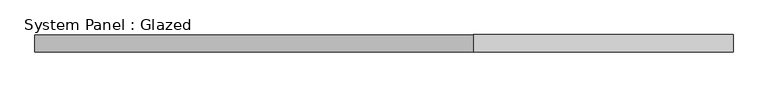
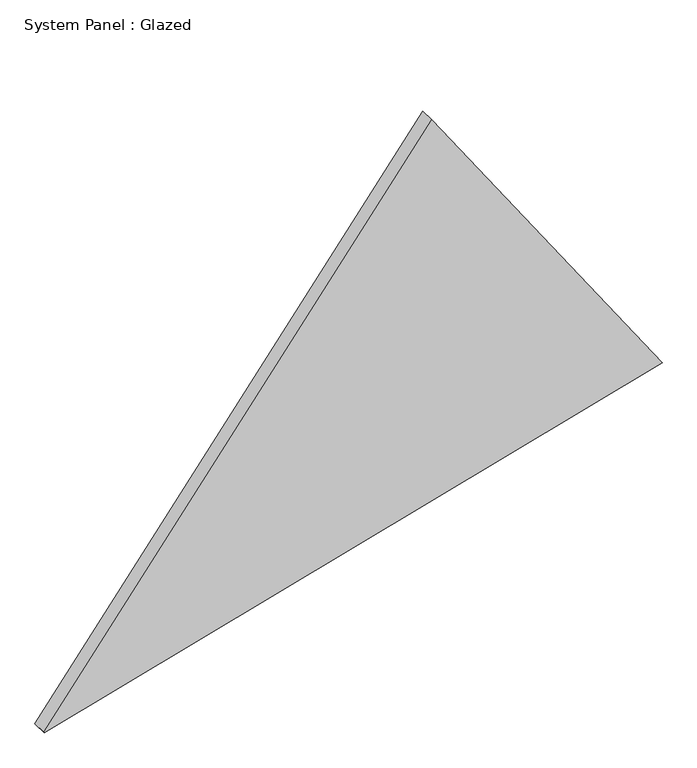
"""IFC4 building model written with IfcOpenShell, lengths in millimetres: plate geometry, System Panel : Glazed."""

from ifc_helpers import new_model, si_unit, frame, origin, place, context, project, spatial, polyline, outline, extrude, source, transform, mapped, element, save


def system_panel_glazed_b605f71e(model_context):
    return source(origin(), model_context, "Body", "SweptSolid", [
        extrude(outline(polyline([(1.3397879, -512.4332998), (0.0, -511.5186248), (290.1830608, 512.4332998), (849.2959874, 130.7261178), (1.3397879, -512.4332998)])), frame((0.0, -44.45, 0.0), z_axis=(0.0, 1.0, 0.0), x_axis=(0.0, 0.0, 1.0)), (0.0, 0.0, 1.0), 25.4),
    ])


if __name__ == "__main__":
    model = new_model("IFC4")
    model_context = context("Model", 3, world=origin())
    ifc_project = project(units=[si_unit("LENGTHUNIT", "METRE", prefix="MILLI")], contexts=[model_context])
    site = spatial("IfcSite", under=ifc_project)
    building = spatial("IfcBuilding", under=site)
    placement = place(None, origin())
    system_panel_glazed_shape = system_panel_glazed_b605f71e(model_context)
    element("IfcPlate", 1, ObjectType="System Panel : Glazed", at=placement, inside=building, context=model_context, shape_type="MappedRepresentation", body=[
        mapped(system_panel_glazed_shape, transform((0.0, 0.0, 0.0), x_axis=(1.0, 0.0, 0.0), y_axis=(0.0, 1.0, 0.0), z_axis=(0.0, 0.0, 1.0))),
    ])
    save(model, "model.ifc")
